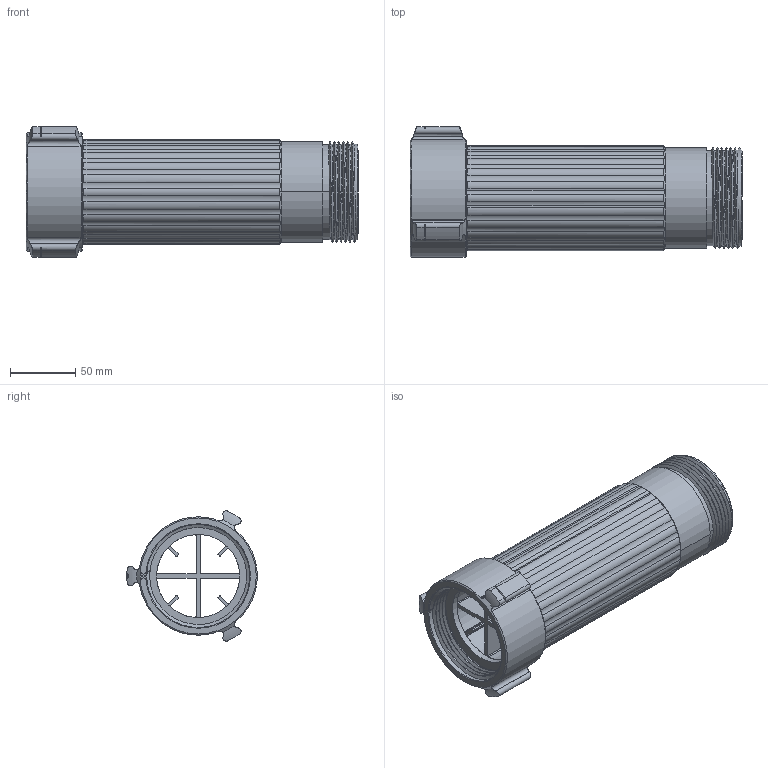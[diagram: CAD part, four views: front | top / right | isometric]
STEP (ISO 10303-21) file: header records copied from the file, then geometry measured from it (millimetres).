
FILE_DESCRIPTION (( 'STEP AP203' ), '1' );
FILE_NAME ('XF-SS10.step', '2014-05-13T19:43:32', ( 'user' ), ( '' ), 'SwSTEP 2.0', 'SolidWorks 2012', '' );
FILE_SCHEMA (( 'CONFIG_CONTROL_DESIGN' ));
Length unit declared in the file: inch
Products named in the file (1): XF-SS10
Bounding box: 253.64 x 99.55 x 99.67 mm (x, y, z)
Surface area: 202788.4 mm2 (no closed solid volume)
Topology: 0 solids, 4 shells, 268 faces, 888 edges, 593 vertices
Faces by surface type: cylinder 178, plane 51, cone 21, torus 14, bspline 4
Entity records: 15251 total; most frequent: CARTESIAN_POINT 7929, ORIENTED_EDGE 1633, DIRECTION 1333, EDGE_CURVE 888, VERTEX_POINT 593, AXIS2_PLACEMENT_3D 496, LINE 341, VECTOR 341
